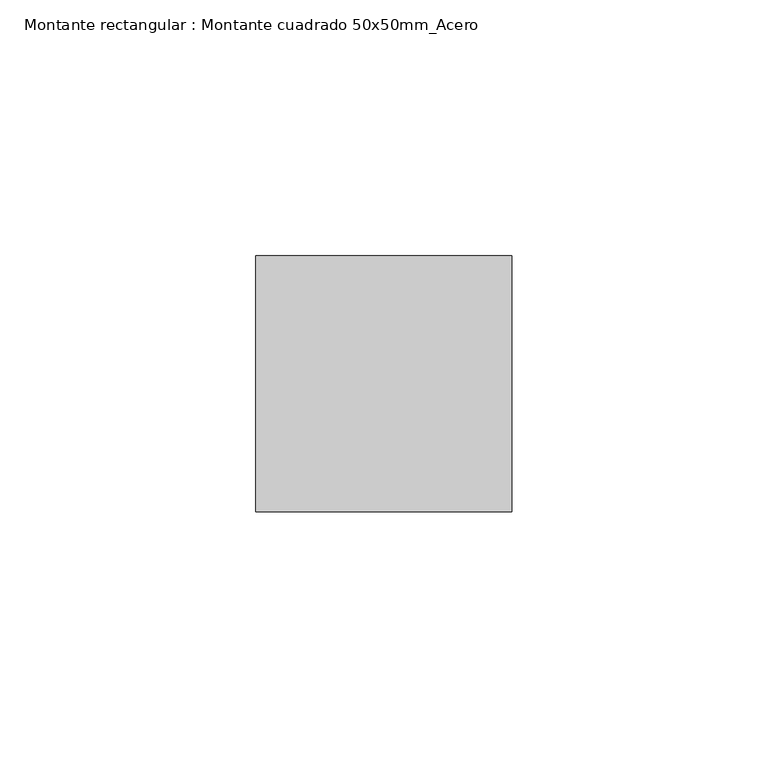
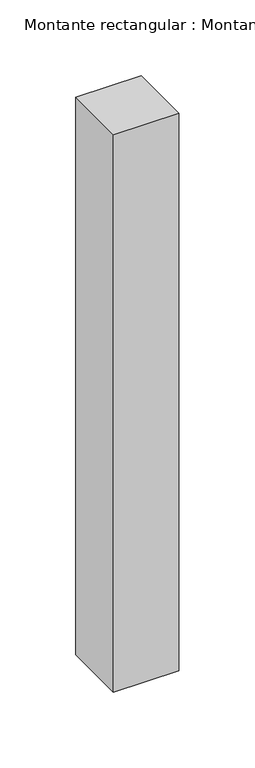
"""IFC4 building model written with IfcOpenShell, lengths in millimetres: member geometry, Montante rectangular : Montante cuadrado 50x50mm_Acero."""

from ifc_helpers import new_model, si_unit, frame, origin, place, context, project, spatial, polyline, outline, extrude, source, transform, mapped, element, save


def montante_rectangular_montante_cuadrado_50x50mm_acero_76341540(model_context):
    return source(origin(), model_context, "Body", "SweptSolid", [
        extrude(outline(polyline([(-50.0, 0.0), (-50.0, 50.0), (0.0, 50.0), (0.0, 0.0), (-50.0, 0.0)])), frame((0.0, 0.0, -450.0), z_axis=(0.0, 0.0, 1.0), x_axis=(1.0, 0.0, 0.0)), (0.0, 0.0, 1.0), 450.0),
    ])


if __name__ == "__main__":
    model = new_model("IFC4")
    model_context = context("Model", 3, world=origin())
    ifc_project = project(units=[si_unit("LENGTHUNIT", "METRE", prefix="MILLI")], contexts=[model_context])
    site = spatial("IfcSite", under=ifc_project)
    building = spatial("IfcBuilding", under=site)
    placement = place(None, origin())
    montante_rectangular_montante_cuadrado_50x50mm_acero_shape = montante_rectangular_montante_cuadrado_50x50mm_acero_76341540(model_context)
    element("IfcMember", 1, ObjectType="Montante rectangular : Montante cuadrado 50x50mm_Acero", at=placement, inside=building, context=model_context, shape_type="MappedRepresentation", body=[
        mapped(montante_rectangular_montante_cuadrado_50x50mm_acero_shape, transform((0.0, 0.0, 0.0), x_axis=(1.0, 0.0, 0.0), y_axis=(0.0, 1.0, 0.0), z_axis=(0.0, 0.0, 1.0))),
    ])
    save(model, "model.ifc")
